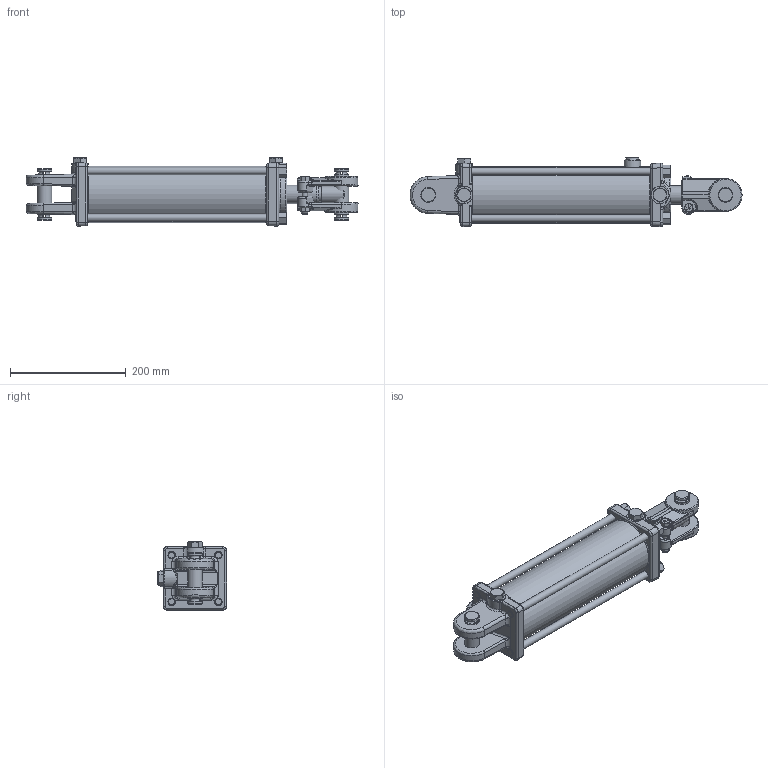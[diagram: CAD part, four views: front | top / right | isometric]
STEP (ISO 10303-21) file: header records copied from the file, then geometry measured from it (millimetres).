
FILE_DESCRIPTION((''),'2;1');
FILE_NAME('\\srvr-eng\EngSales\PMS-AM-2621SP.stp','2011-01-18T13:42:00',('KneiflD'),(''),'Autodesk Inventor 2011','Autodesk Inventor 2011','');
FILE_SCHEMA(('AUTOMOTIVE_DESIGN { 1 0 10303 214 1 1 1 1 }'));
Length unit declared in the file: inch
Products named in the file (28): PMS-AM-2621SP; 061700497; 051700519; 200300181V; 1417005SFV; 081700269V; 081700268V; 210600293V; 010600437; 100000423; 100000422; 170002104; 220000203; 071700345V; 220000209V; 240064350V; 240061236V; 240000236V; 240011096V; 240000026V; 250014125V; 240020184V; 200300104V; 200300040V; 190400001V; 170201123AV; 170201143; 220000105V
Assembly tree (35 placements, depth 3):
  PMS-AM-2621SP
    061700497
      051700519
      200300181V
    1417005SFV
    081700269V
      081700268V
      210600293V
    010600437
    100000423
      100000422
      170002104
      220000203
    071700345V
    220000209V
    240064350V
    240061236V  x2
    240000236V  x2
    240011096V
    240000026V
    250014125V
    240020184V
    200300104V
    200300040V  x3
    190400001V  x2
    170201123AV  x4
      170201143
      220000105V
Bounding box: 574.65 x 119.98 x 117.97 mm (x, y, z)
Volume: 2162949.6 mm3; surface area: 541508.7 mm2
Topology: 34 solids, 34 shells, 1016 faces, 2310 edges, 1364 vertices
Faces by surface type: plane 301, cylinder 268, bspline 200, cone 180, torus 49, sphere 18
Full cylindrical faces by diameter (mm): 1.575 x1, 2.769 x1, 5.159 x4, 7.798 x1, 7.938 x3, 9.493 x1, 9.525 x1, 10.319 x2, 10.592 x4, 10.719 x4, 12.7 x4, 13.097 x4, 16.764 x3, 17.066 x3, 17.501 x4, 19.05 x4, 20.676 x1, 22.174 x1, 22.301 x1, 22.352 x1, 25.4 x6, 25.781 x4, 25.806 x1, 28.372 x1, 28.575 x1, 31.725 x2, 31.75 x2, 32.004 x1, 32.702 x1, 33.376 x1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
Entity records: 43702 total; most frequent: CARTESIAN_POINT 25129, ORIENTED_EDGE 3514, DIRECTION 3466, EDGE_CURVE 1757, AXIS2_PLACEMENT_3D 1462, VERTEX_POINT 1136, EDGE_LOOP 1115, FACE_OUTER_BOUND 856
